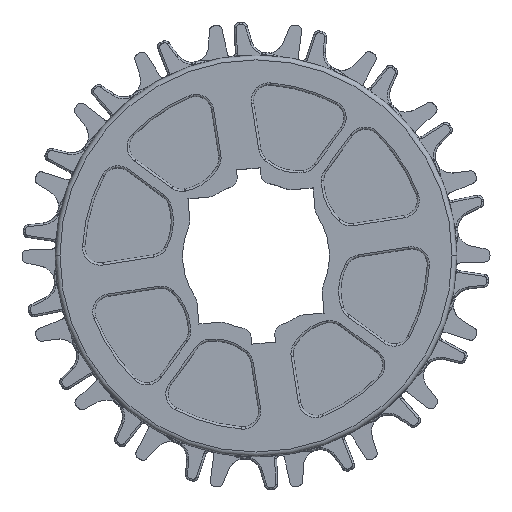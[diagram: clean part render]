
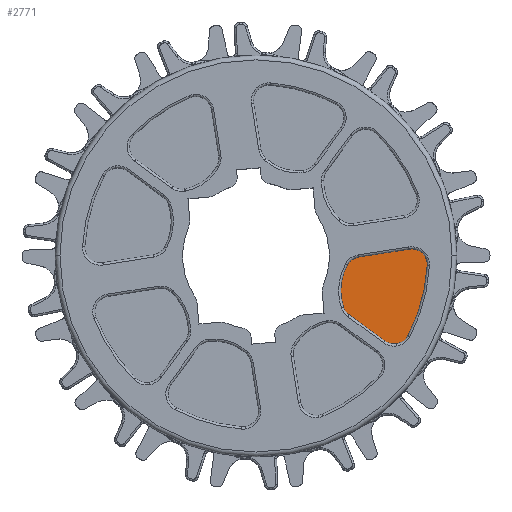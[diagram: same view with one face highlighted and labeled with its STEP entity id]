
A CAD part, top view. The second image highlights one B-rep face of the part: STEP entity #2771.
In plain terms, the highlighted planar face has unit normal (0, 0, 1).
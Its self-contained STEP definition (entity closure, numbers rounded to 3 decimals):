
#835=PLANE('',#23264);
#1437=FACE_OUTER_BOUND('',#4599,.T.);
#2771=ADVANCED_FACE('',(#1437),#835,.T.);
#4599=EDGE_LOOP('',(#9745,#9746,#9747,#9748,#9749,#9750,#9751,#9752,#9753,
#9754,#9755));
#6160=CIRCLE('',#23253,5.);
#6161=CIRCLE('',#23255,5.);
#6162=CIRCLE('',#23256,5.);
#6163=CIRCLE('',#23258,54.589);
#6164=CIRCLE('',#23259,5.);
#6165=CIRCLE('',#23260,5.);
#6166=CIRCLE('',#23261,5.);
#6167=CIRCLE('',#23262,17.001);
#6168=CIRCLE('',#23263,5.);
#6872=LINE('',#32556,#7503);
#6873=LINE('',#32564,#7504);
#7503=VECTOR('',#26310,1.);
#7504=VECTOR('',#26317,1.);
#9745=ORIENTED_EDGE('',*,*,#18241,.T.);
#9746=ORIENTED_EDGE('',*,*,#18243,.T.);
#9747=ORIENTED_EDGE('',*,*,#18239,.T.);
#9748=ORIENTED_EDGE('',*,*,#18244,.T.);
#9749=ORIENTED_EDGE('',*,*,#18245,.T.);
#9750=ORIENTED_EDGE('',*,*,#18246,.F.);
#9751=ORIENTED_EDGE('',*,*,#18247,.F.);
#9752=ORIENTED_EDGE('',*,*,#18248,.T.);
#9753=ORIENTED_EDGE('',*,*,#18249,.T.);
#9754=ORIENTED_EDGE('',*,*,#18250,.T.);
#9755=ORIENTED_EDGE('',*,*,#18251,.T.);
#15736=VERTEX_POINT('',#32539);
#15737=VERTEX_POINT('',#32541);
#15738=VERTEX_POINT('',#32545);
#15739=VERTEX_POINT('',#32546);
#15740=VERTEX_POINT('',#32551);
#15741=VERTEX_POINT('',#32553);
#15742=VERTEX_POINT('',#32555);
#15743=VERTEX_POINT('',#32557);
#15744=VERTEX_POINT('',#32559);
#15745=VERTEX_POINT('',#32561);
#15746=VERTEX_POINT('',#32563);
#18239=EDGE_CURVE('',#15737,#15736,#6160,.T.);
#18241=EDGE_CURVE('',#15738,#15739,#6161,.T.);
#18243=EDGE_CURVE('',#15739,#15737,#6162,.T.);
#18244=EDGE_CURVE('',#15736,#15740,#6163,.T.);
#18245=EDGE_CURVE('',#15740,#15741,#6164,.T.);
#18246=EDGE_CURVE('',#15742,#15741,#6165,.T.);
#18247=EDGE_CURVE('',#15743,#15742,#6872,.T.);
#18248=EDGE_CURVE('',#15743,#15744,#6166,.T.);
#18249=EDGE_CURVE('',#15744,#15745,#6167,.T.);
#18250=EDGE_CURVE('',#15745,#15746,#6168,.T.);
#18251=EDGE_CURVE('',#15746,#15738,#6873,.T.);
#23253=AXIS2_PLACEMENT_3D('',#32540,#26292,#26293);
#23255=AXIS2_PLACEMENT_3D('',#32544,#26297,#26298);
#23256=AXIS2_PLACEMENT_3D('',#32548,#26300,#26301);
#23258=AXIS2_PLACEMENT_3D('',#32550,#26304,#26305);
#23259=AXIS2_PLACEMENT_3D('',#32552,#26306,#26307);
#23260=AXIS2_PLACEMENT_3D('',#32554,#26308,#26309);
#23261=AXIS2_PLACEMENT_3D('',#32558,#26311,#26312);
#23262=AXIS2_PLACEMENT_3D('',#32560,#26313,#26314);
#23263=AXIS2_PLACEMENT_3D('',#32562,#26315,#26316);
#23264=AXIS2_PLACEMENT_3D('',#32565,#26318,#26319);
#26292=DIRECTION('',(0.,0.,1.));
#26293=DIRECTION('',(0.15,-0.989,0.));
#26297=DIRECTION('',(0.,0.,1.));
#26298=DIRECTION('',(-0.589,-0.808,0.));
#26300=DIRECTION('',(0.,0.,1.));
#26301=DIRECTION('',(0.,-1.,0.));
#26304=DIRECTION('',(0.,0.,1.));
#26305=DIRECTION('',(0.886,-0.464,0.));
#26306=DIRECTION('',(0.,0.,1.));
#26307=DIRECTION('',(0.998,-0.056,0.));
#26308=DIRECTION('',(0.,0.,-1.));
#26309=DIRECTION('',(-0.155,0.988,0.));
#26310=DIRECTION('',(0.988,0.155,0.));
#26311=DIRECTION('',(0.,0.,1.));
#26312=DIRECTION('',(-0.155,0.988,0.));
#26313=DIRECTION('',(0.,0.,1.));
#26314=DIRECTION('',(-0.878,0.479,0.));
#26315=DIRECTION('',(0.,0.,1.));
#26316=DIRECTION('',(-0.952,-0.306,0.));
#26317=DIRECTION('',(0.808,-0.589,0.));
#26318=DIRECTION('',(0.,0.,1.));
#26319=DIRECTION('',(-0.155,0.988,0.));
#32539=CARTESIAN_POINT('',(358.565,-25.314,13.2));
#32540=CARTESIAN_POINT('',(354.135,-22.996,13.2));
#32541=CARTESIAN_POINT('',(354.885,-27.939,13.2));
#32544=CARTESIAN_POINT('',(354.135,-22.996,13.2));
#32545=CARTESIAN_POINT('',(351.189,-27.036,13.2));
#32546=CARTESIAN_POINT('',(354.135,-27.996,13.2));
#32548=CARTESIAN_POINT('',(354.135,-22.996,13.2));
#32550=CARTESIAN_POINT('',(310.2,0.,13.2));
#32551=CARTESIAN_POINT('',(364.704,-3.046,13.2));
#32552=CARTESIAN_POINT('',(359.712,-2.767,13.2));
#32553=CARTESIAN_POINT('',(358.962,2.176,13.2));
#32554=CARTESIAN_POINT('',(359.712,-2.767,13.2));
#32555=CARTESIAN_POINT('',(358.938,2.172,13.2));
#32556=CARTESIAN_POINT('',(342.879,-0.344,13.2));
#32557=CARTESIAN_POINT('',(342.879,-0.344,13.2));
#32558=CARTESIAN_POINT('',(343.653,-5.284,13.2));
#32559=CARTESIAN_POINT('',(339.263,-2.89,13.2));
#32560=CARTESIAN_POINT('',(354.189,-11.03,13.2));
#32561=CARTESIAN_POINT('',(338.006,-16.239,13.2));
#32562=CARTESIAN_POINT('',(342.766,-14.707,13.2));
#32563=CARTESIAN_POINT('',(339.82,-18.747,13.2));
#32564=CARTESIAN_POINT('',(339.82,-18.747,13.2));
#32565=CARTESIAN_POINT('',(354.189,-11.03,13.2));
